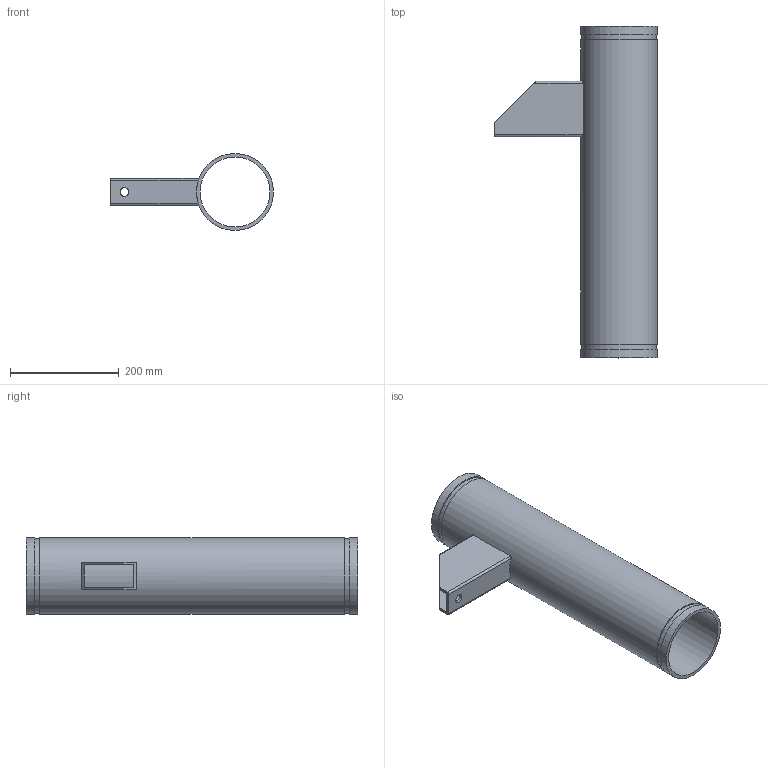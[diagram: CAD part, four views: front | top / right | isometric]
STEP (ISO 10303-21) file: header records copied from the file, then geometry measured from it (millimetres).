
FILE_DESCRIPTION(/* description */ ('VIC FLOOR MOUNTED RISER ANCHOR No A40'),/* implementation_level */ '2;1');
FILE_NAME(/* name */ 'C:\Files for Export\A40 & A40S-STEP-SWX\STEP\Victaulic_IPS_Riser Anchor_No A40 (OGS)\Victaulic_IPS_Riser Anchor_No A40 (OGS)_5 (125).stp',/* time_stamp */ '2024-06-07T07:36:26+02:00',/* author */ ('kkamble'),/* organization */ ('Victaulic'),/* preprocessor_version */ 'ST-DEVELOPER v18.1',/* originating_system */ 'Autodesk Inventor 2020',/* authorisation */ '');
FILE_SCHEMA (('AUTOMOTIVE_DESIGN { 1 0 10303 214 3 1 1 }'));
Length unit declared in the file: inch
Products named in the file (1): A40-05.0
Bounding box: 299.25 x 609.6 x 141.3 mm (x, y, z)
Volume: 1858671.2 mm3; surface area: 598503.9 mm2
Topology: 1 solids, 1 shells, 28 faces, 78 edges, 56 vertices
Faces by surface type: plane 16, cylinder 12
Full cylindrical faces by diameter (mm): 15.875 x1, 128.194 x1, 137.033 x2, 141.3 x3
Entity records: 1041 total; most frequent: CARTESIAN_POINT 199, DIRECTION 168, ORIENTED_EDGE 156, EDGE_CURVE 78, AXIS2_PLACEMENT_3D 65, VERTEX_POINT 56, LINE 38, VECTOR 38
